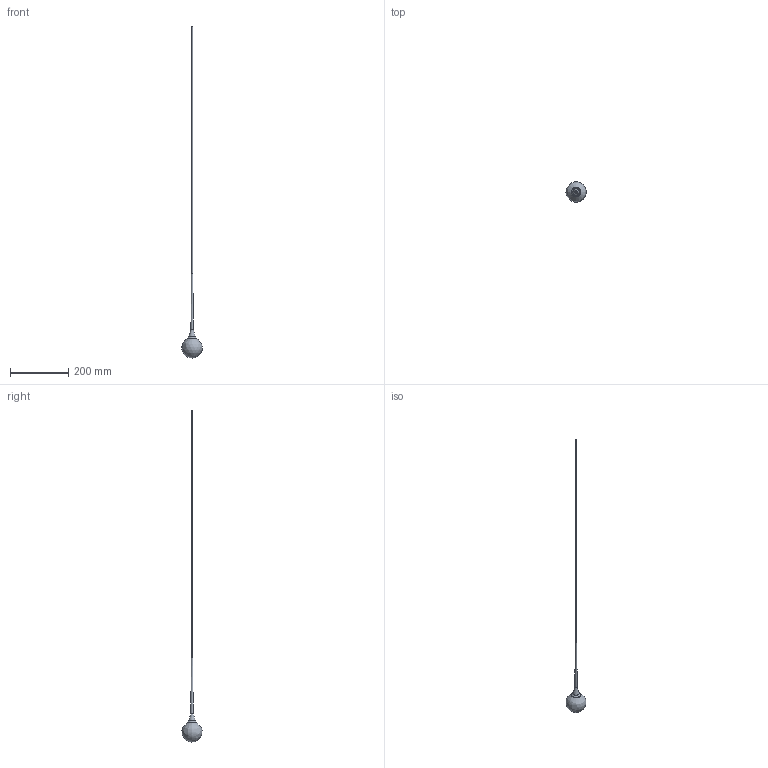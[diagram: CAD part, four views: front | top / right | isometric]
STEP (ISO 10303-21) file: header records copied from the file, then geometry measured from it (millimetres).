
FILE_DESCRIPTION(/* description */ (''),/* implementation_level */ '2;1');
FILE_NAME(/* name */ '1681',/* time_stamp */ '2021-11-26T11:18:53+01:00',/* author */ (''),/* organization */ (''),/* preprocessor_version */ 'ST-DEVELOPER v16.5',/* originating_system */ '',/* authorisation */ '');
FILE_SCHEMA (('CONFIG_CONTROL_DESIGN'));
Length unit declared in the file: millimetre
Products named in the file (1): Document
Bounding box: 69.31 x 68.63 x 1136.37 mm (x, y, z)
Volume: 5990.8 mm3; surface area: 30696 mm2
Topology: 1 solids, 11 shells, 14 faces, 25 edges, 18 vertices
Faces by surface type: plane 8, bspline 4, cylinder 2
Full cylindrical faces by diameter (mm): 3 x1, 33 x1
Entity records: 619 total; most frequent: CARTESIAN_POINT 325, ORIENTED_EDGE 44, EDGE_CURVE 29, VERTEX_POINT 23, DIRECTION 16, ADVANCED_FACE 14, FACE_OUTER_BOUND 14, EDGE_LOOP 14
